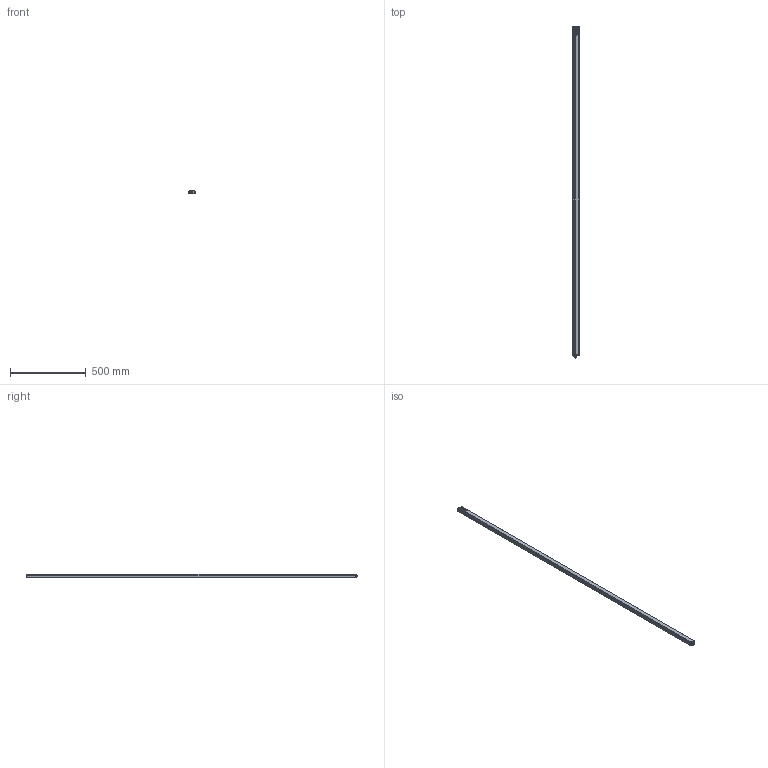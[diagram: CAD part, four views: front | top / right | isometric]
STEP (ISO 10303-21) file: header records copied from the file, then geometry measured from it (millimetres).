
FILE_DESCRIPTION(/* description */ (''),/* implementation_level */ '2;1');
FILE_NAME(/* name */ 'C:\Users\andre\SynologyDrive\Optoscan\Libreria Componenti\00 - Barriere\Barriera sorgente\Argo_2160_TX.stp',/* time_stamp */ '2021-04-22T10:31:02+02:00',/* author */ ('andre'),/* organization */ (''),/* preprocessor_version */ 'ST-DEVELOPER v18',/* originating_system */ 'Autodesk Inventor 2020',/* authorisation */ '');
FILE_SCHEMA (('AUTOMOTIVE_DESIGN { 1 0 10303 214 3 1 1 }'));
Length unit declared in the file: millimetre
Products named in the file (1): Argo_2160_TX
Bounding box: 40.5 x 2193.3 x 20.75 mm (x, y, z)
Volume: 431845.3 mm3; surface area: 569209.3 mm2
Topology: 1 solids, 1 shells, 696 faces, 1911 edges, 1225 vertices
Faces by surface type: plane 321, cylinder 195, bspline 94, torus 72, cone 8, sphere 6
Full cylindrical faces by diameter (mm): 1 x4, 2.459 x4, 2.5 x4, 3 x4, 3.5 x4, 5.5 x4, 8 x1, 10.5 x2, 11.75 x9, 15.7 x1, 17.5 x1
Entity records: 30770 total; most frequent: CARTESIAN_POINT 12670, ORIENTED_EDGE 3806, DIRECTION 3415, EDGE_CURVE 1903, VERTEX_POINT 1225, AXIS2_PLACEMENT_3D 1193, LINE 1029, VECTOR 1029
